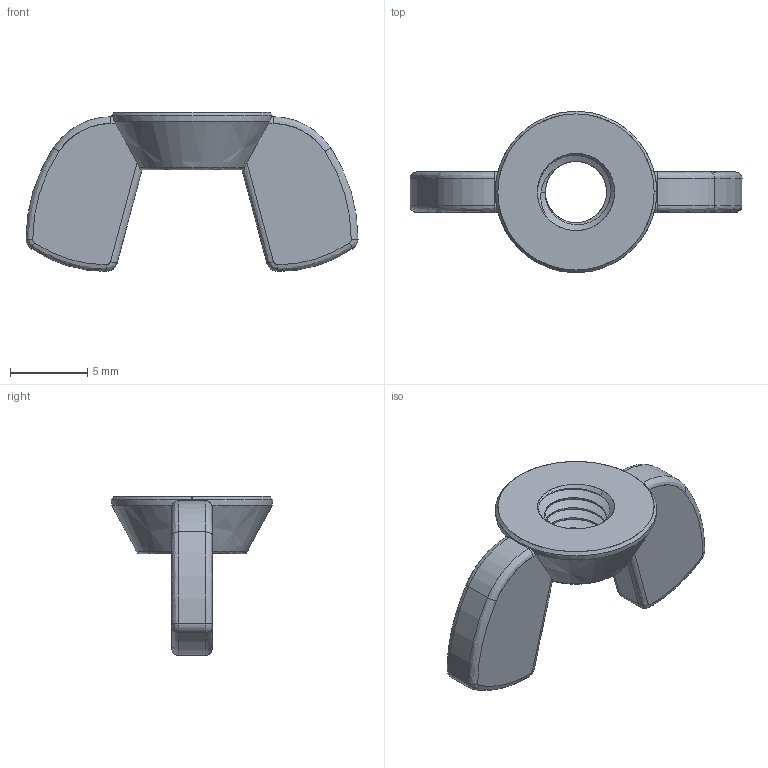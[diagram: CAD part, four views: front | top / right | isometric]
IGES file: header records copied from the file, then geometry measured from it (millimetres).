
Start section: SolidWorks IGES file using analytic representation for surfaces
Global section: file name: C:\Users\Home\Desktop\Wing Nuts Metric\WING NUT M5 x 0.8mm Thread.IGS; native system: SolidWorks 2014; preprocessor: SolidWorks 2014; author: Home; date: 170501.205918; units: millimetre
Bounding box: 21.5 x 10.46 x 10.3 mm (x, y, z)
Surface area: 590.4 mm2 (no closed solid volume)
Topology: 0 solids, 0 shells, 83 faces, 1136 edges, 1136 vertices
Faces by surface type: revolution 49, bspline 34
